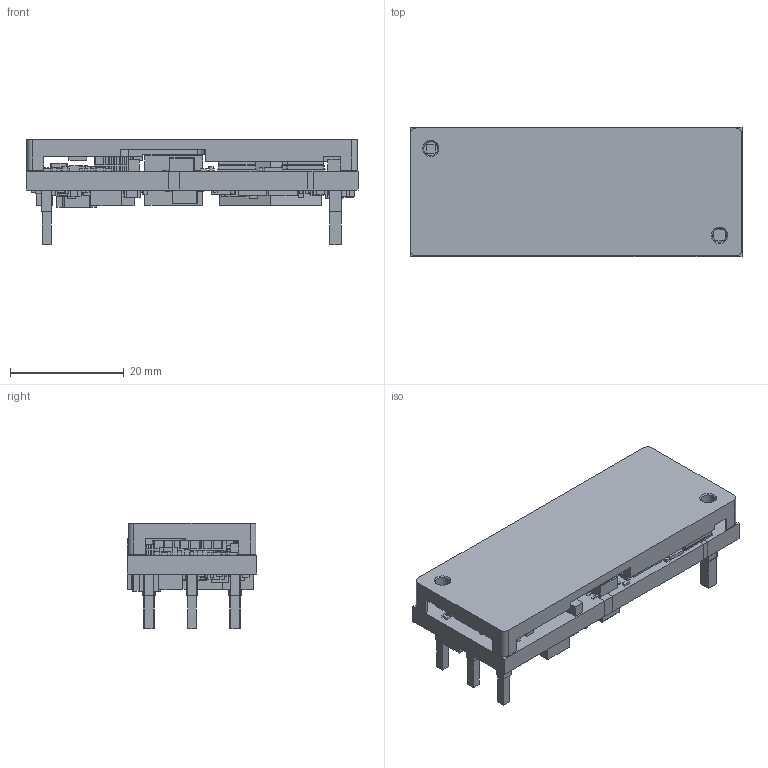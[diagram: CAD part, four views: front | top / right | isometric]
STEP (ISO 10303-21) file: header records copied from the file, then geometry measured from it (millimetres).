
FILE_DESCRIPTION( ( 'STEP Version 203' ), '1' );
FILE_NAME( 'C:/Users/joel.cramsky/Desktop/BMR67406BP_squared_mm.stp', '02/19/18 09:03:39', ( 'joel.cramsky' ), ( ' ' ), 'PSStep 19.0.9', 'DesignModeler STEP Output', ' ' );
FILE_SCHEMA( ( 'CONFIG_CONTROL_DESIGN' ) );
Length unit declared in the file: metre
Products named in the file (195): 1; 2; 3; 4; 5; 6; 7; 8; 9; 10; 11; 12; 13; 14; 15; 16; 17; 18; 19; 20; 21; 22; 23; 24; 25; 26; 27; 28; 29; 30; 31; 32; 33; 34; 35; 36; 37; 38; 39; 40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
Bounding box: 58.4 x 22.7 x 18.5 mm (x, y, z)
Volume: 11392 mm3; surface area: 14771.3 mm2
Topology: 195 solids, 195 shells, 2252 faces, 6333 edges, 4593 vertices
Faces by surface type: plane 1920, bspline 233, cylinder 67, sphere 24, cone 8
Entity records: 77038 total; most frequent: CARTESIAN_POINT 14421, ORIENTED_EDGE 12618, DIRECTION 10648, EDGE_CURVE 6309, LINE 5892, VECTOR 5892, VERTEX_POINT 4593, EDGE_LOOP 2428
